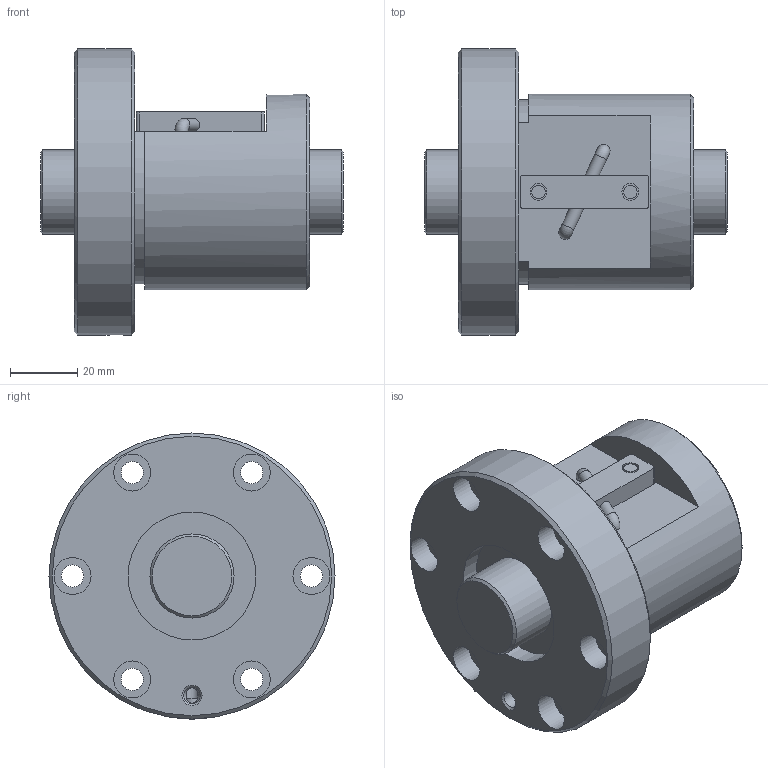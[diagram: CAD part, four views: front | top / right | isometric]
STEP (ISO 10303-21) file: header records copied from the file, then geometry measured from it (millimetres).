
FILE_DESCRIPTION(/* description */ ('STEP AP203'),/* implementation_level */ '2;1');
FILE_NAME(/* name */ 'BNF2510V-2.5RRG1+90LC0_000_rev',/* time_stamp */ '2024-08-06T07:29:44+02:00',/* author */ ('License CC BY-ND 4.0'),/* organization */ ('CADENAS'),/* preprocessor_version */ 'ST-DEVELOPER v19.3',/* originating_system */ 'PARTsolutions',/* authorisation */ ' ');
FILE_SCHEMA (('CONFIG_CONTROL_DESIGN'));
Length unit declared in the file: millimetre
Products named in the file (3): BNF2510V-2.5RRG1+90LC0_000_rev; BNF 2510A-2.5RR000 Shaft; BNF 2510A-2.5RR Nut
Assembly tree (2 placements, depth 2):
  BNF2510V-2.5RRG1+90LC0_000_rev
    BNF 2510A-2.5RR000 Shaft
    BNF 2510A-2.5RR Nut
Bounding box: 90 x 85 x 85 mm (x, y, z)
Volume: 223483.6 mm3; surface area: 42692.5 mm2
Topology: 2 solids, 2 shells, 69 faces, 148 edges, 96 vertices
Faces by surface type: cylinder 33, plane 27, cone 7, torus 2
Full cylindrical faces by diameter (mm): 3.865 x2, 4 x2, 4.5 x2, 4.917 x1, 5 x2, 6.6 x6, 11 x6, 25 x2, 38 x2, 58 x1, 85 x1
Entity records: 1755 total; most frequent: DIRECTION 312, CARTESIAN_POINT 296, ORIENTED_EDGE 200, AXIS2_PLACEMENT_3D 144, EDGE_LOOP 140, FACE_BOUND 140, EDGE_CURVE 100, VERTEX_POINT 86
